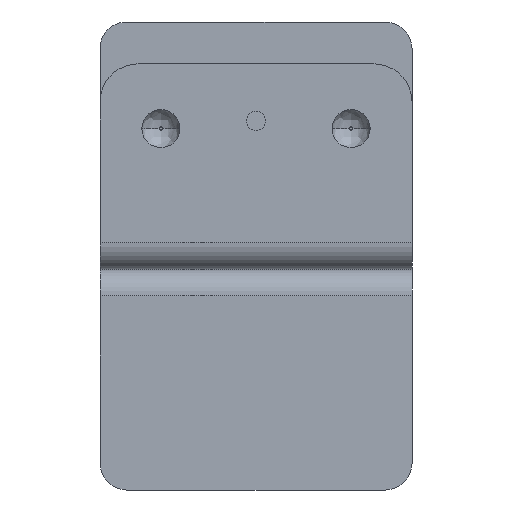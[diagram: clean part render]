
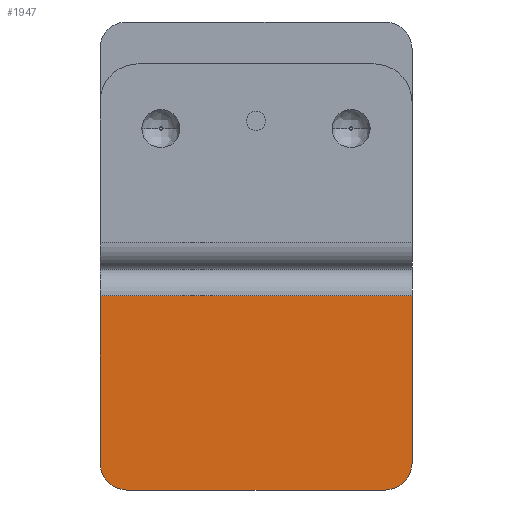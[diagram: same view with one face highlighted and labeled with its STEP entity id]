
A CAD part, front view. The second image highlights one B-rep face of the part: STEP entity #1947.
In plain terms, the highlighted planar face has unit normal (0, -1, 0).
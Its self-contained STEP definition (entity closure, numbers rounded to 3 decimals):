
#344=DIRECTION('',(0.,0.,1.));
#345=VECTOR('',#344,22.02);
#346=CARTESIAN_POINT('',(20.5,-32.3,-58.));
#347=LINE('',#346,#345);
#462=DIRECTION('',(0.,0.,1.));
#463=VECTOR('',#462,22.02);
#464=CARTESIAN_POINT('',(-20.5,-32.3,-58.));
#465=LINE('',#464,#463);
#630=DIRECTION('',(1.,0.,0.));
#631=VECTOR('',#630,41.);
#632=CARTESIAN_POINT('',(-20.5,-32.3,-35.98));
#633=LINE('',#632,#631);
#648=DIRECTION('',(-1.,0.,0.));
#649=VECTOR('',#648,34.);
#650=CARTESIAN_POINT('',(17.,-32.3,-61.5));
#651=LINE('',#650,#649);
#656=CARTESIAN_POINT('',(17.,-32.3,-58.));
#657=DIRECTION('',(0.,-1.,0.));
#658=DIRECTION('',(0.,0.,-1.));
#659=AXIS2_PLACEMENT_3D('',#656,#657,#658);
#687=CARTESIAN_POINT('',(-17.,-32.3,-58.));
#688=DIRECTION('',(0.,-1.,0.));
#689=DIRECTION('',(-1.,0.,0.));
#690=AXIS2_PLACEMENT_3D('',#687,#688,#689);
#1042=CARTESIAN_POINT('',(17.,-32.3,-61.5));
#1044=VERTEX_POINT('',#1042);
#1046=CARTESIAN_POINT('',(20.5,-32.3,-58.));
#1047=VERTEX_POINT('',#1046);
#1051=CARTESIAN_POINT('',(-17.,-32.3,-61.5));
#1053=VERTEX_POINT('',#1051);
#1056=CARTESIAN_POINT('',(-20.5,-32.3,-58.));
#1057=VERTEX_POINT('',#1056);
#1058=CARTESIAN_POINT('',(-20.5,-32.3,-35.98));
#1059=CARTESIAN_POINT('',(20.5,-32.3,-35.98));
#1060=VERTEX_POINT('',#1058);
#1061=VERTEX_POINT('',#1059);
#1931=CARTESIAN_POINT('',(20.5,-32.3,-61.5));
#1932=DIRECTION('',(0.,-1.,0.));
#1933=DIRECTION('',(0.,0.,1.));
#1934=AXIS2_PLACEMENT_3D('',#1931,#1932,#1933);
#1935=PLANE('',#1934);
#1936=ORIENTED_EDGE('',*,*,#1923,.T.);
#1937=ORIENTED_EDGE('',*,*,#1514,.F.);
#1939=ORIENTED_EDGE('',*,*,#1938,.F.);
#1941=ORIENTED_EDGE('',*,*,#1940,.T.);
#1943=ORIENTED_EDGE('',*,*,#1942,.F.);
#1944=ORIENTED_EDGE('',*,*,#1634,.T.);
#1945=EDGE_LOOP('',(#1936,#1937,#1939,#1941,#1943,#1944));
#1946=FACE_OUTER_BOUND('',#1945,.F.);
#1947=ADVANCED_FACE('',(#1946),#1935,.T.);
#660=CIRCLE('',#659,3.5);
#691=CIRCLE('',#690,3.5);
#1514=EDGE_CURVE('',#1047,#1061,#347,.T.);
#1634=EDGE_CURVE('',#1057,#1060,#465,.T.);
#1923=EDGE_CURVE('',#1060,#1061,#633,.T.);
#1938=EDGE_CURVE('',#1044,#1047,#660,.T.);
#1940=EDGE_CURVE('',#1044,#1053,#651,.T.);
#1942=EDGE_CURVE('',#1057,#1053,#691,.T.);
